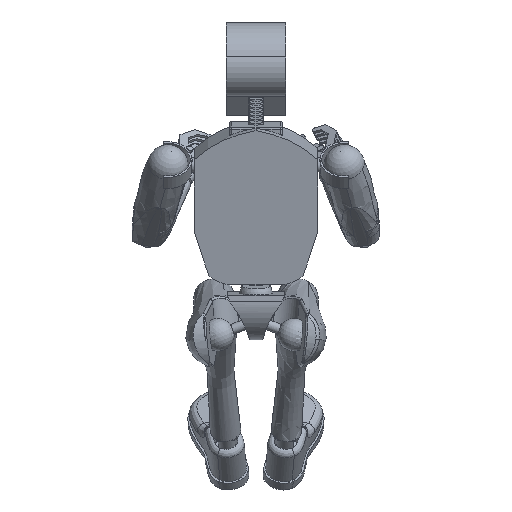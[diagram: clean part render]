
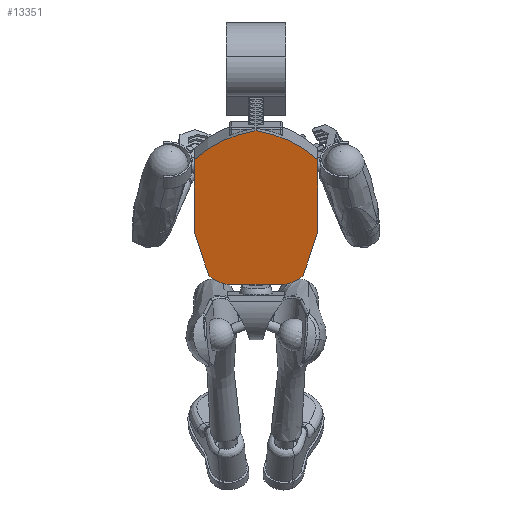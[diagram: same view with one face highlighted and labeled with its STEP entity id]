
A CAD part, left-side view. The second image highlights one B-rep face of the part: STEP entity #13351.
In plain terms, the highlighted planar face has unit normal (-0.978, 0, -0.208).
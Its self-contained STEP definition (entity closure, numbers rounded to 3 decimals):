
#1166=PLANE('',#14370);
#1703=FACE_OUTER_BOUND('',#2448,.T.);
#2448=EDGE_LOOP('',(#10642,#10643,#10644,#10645,#10646,#10647,#10648,#10649,
#10650));
#3413=LINE('',#37902,#4278);
#3423=LINE('',#37931,#4288);
#3435=LINE('',#37965,#4300);
#3444=LINE('',#38132,#4309);
#3445=LINE('',#38136,#4310);
#4278=VECTOR('',#16801,0.394);
#4288=VECTOR('',#16823,0.394);
#4300=VECTOR('',#16837,0.394);
#4309=VECTOR('',#16874,0.394);
#4310=VECTOR('',#16879,0.394);
#4744=CIRCLE('',#14361,11.516);
#4745=CIRCLE('',#14363,11.516);
#4750=CIRCLE('',#14371,2.953);
#4751=CIRCLE('',#14372,2.953);
#5702=VERTEX_POINT('',#37899);
#5703=VERTEX_POINT('',#37901);
#5715=VERTEX_POINT('',#37928);
#5716=VERTEX_POINT('',#37930);
#5728=VERTEX_POINT('',#37962);
#5729=VERTEX_POINT('',#37964);
#5739=VERTEX_POINT('',#38014);
#5752=VERTEX_POINT('',#38131);
#5753=VERTEX_POINT('',#38134);
#7404=EDGE_CURVE('',#5703,#5702,#3413,.T.);
#7417=EDGE_CURVE('',#5716,#5715,#3423,.T.);
#7431=EDGE_CURVE('',#5729,#5728,#3435,.T.);
#7443=EDGE_CURVE('',#5715,#5739,#4744,.T.);
#7444=EDGE_CURVE('',#5739,#5729,#4745,.T.);
#7460=EDGE_CURVE('',#5728,#5752,#3444,.T.);
#7461=EDGE_CURVE('',#5703,#5752,#4750,.T.);
#7462=EDGE_CURVE('',#5753,#5702,#4751,.T.);
#7463=EDGE_CURVE('',#5716,#5753,#3445,.T.);
#10642=ORIENTED_EDGE('',*,*,#7443,.T.);
#10643=ORIENTED_EDGE('',*,*,#7444,.T.);
#10644=ORIENTED_EDGE('',*,*,#7431,.T.);
#10645=ORIENTED_EDGE('',*,*,#7460,.T.);
#10646=ORIENTED_EDGE('',*,*,#7461,.F.);
#10647=ORIENTED_EDGE('',*,*,#7404,.T.);
#10648=ORIENTED_EDGE('',*,*,#7462,.F.);
#10649=ORIENTED_EDGE('',*,*,#7463,.F.);
#10650=ORIENTED_EDGE('',*,*,#7417,.T.);
#13351=ADVANCED_FACE('',(#1703),#1166,.F.);
#14361=AXIS2_PLACEMENT_3D('',#38016,#16850,#16851);
#14363=AXIS2_PLACEMENT_3D('',#38018,#16854,#16855);
#14370=AXIS2_PLACEMENT_3D('',#38130,#16872,#16873);
#14371=AXIS2_PLACEMENT_3D('',#38133,#16875,#16876);
#14372=AXIS2_PLACEMENT_3D('',#38135,#16877,#16878);
#16801=DIRECTION('',(0.,-1.,0.));
#16823=DIRECTION('',(-0.208,0.,0.978));
#16837=DIRECTION('',(0.208,0.,-0.978));
#16850=DIRECTION('center_axis',(-0.978,0.,-0.208));
#16851=DIRECTION('ref_axis',(-0.205,-0.155,0.966));
#16854=DIRECTION('center_axis',(-0.978,0.,-0.208));
#16855=DIRECTION('ref_axis',(-0.153,0.675,0.722));
#16872=DIRECTION('center_axis',(0.978,0.,0.208));
#16873=DIRECTION('ref_axis',(0.,1.,0.));
#16874=DIRECTION('',(0.198,-0.309,-0.93));
#16875=DIRECTION('center_axis',(0.978,0.,0.208));
#16876=DIRECTION('ref_axis',(0.208,0.,-0.978));
#16877=DIRECTION('center_axis',(0.978,0.,0.208));
#16878=DIRECTION('ref_axis',(0.048,-0.973,-0.224));
#16879=DIRECTION('',(0.198,0.309,-0.93));
#37899=CARTESIAN_POINT('',(1.31,-2.441,-20.841));
#37901=CARTESIAN_POINT('',(1.31,2.441,-20.841));
#37902=CARTESIAN_POINT('',(1.31,0.,-20.841));
#37928=CARTESIAN_POINT('',(-1.252,-5.979,-8.787));
#37930=CARTESIAN_POINT('',(0.222,-5.979,-15.719));
#37931=CARTESIAN_POINT('',(0.938,-5.979,-19.089));
#37962=CARTESIAN_POINT('',(0.222,5.979,-15.719));
#37964=CARTESIAN_POINT('',(-1.252,5.979,-8.787));
#37965=CARTESIAN_POINT('',(0.938,5.979,-19.089));
#38014=CARTESIAN_POINT('',(-1.849,0.,-5.976));
#38016=CARTESIAN_POINT('Origin',(0.516,1.789,-17.103));
#38018=CARTESIAN_POINT('Origin',(0.516,-1.789,-17.103));
#38130=CARTESIAN_POINT('Origin',(1.654,0.,
-22.458));
#38131=CARTESIAN_POINT('',(1.121,4.573,-19.95));
#38132=CARTESIAN_POINT('',(1.768,3.562,-22.996));
#38133=CARTESIAN_POINT('Origin',(0.696,2.441,-17.952));
#38134=CARTESIAN_POINT('',(1.121,-4.573,-19.95));
#38135=CARTESIAN_POINT('Origin',(0.696,-2.441,-17.952));
#38136=CARTESIAN_POINT('',(1.768,-3.562,-22.996));
